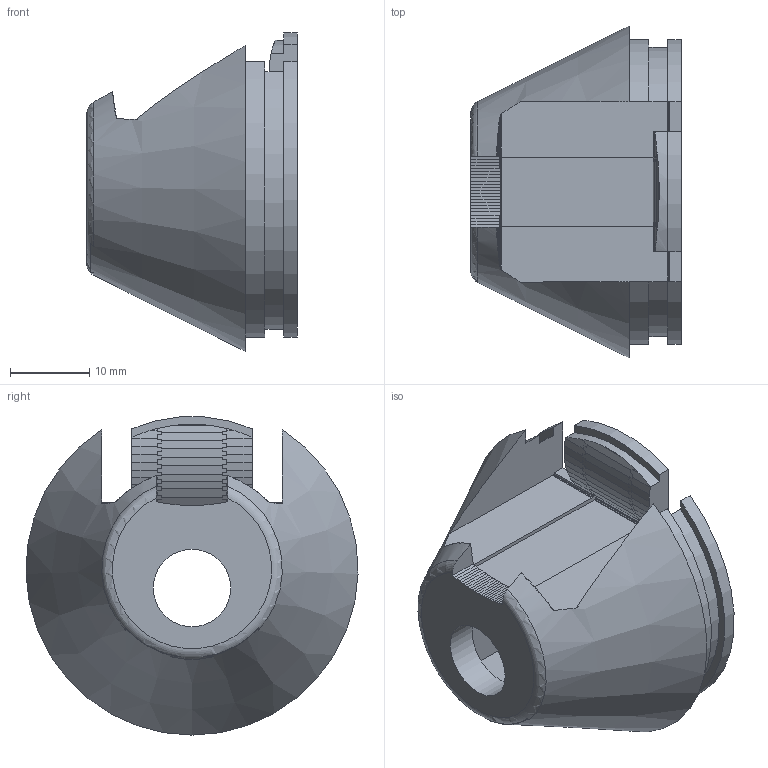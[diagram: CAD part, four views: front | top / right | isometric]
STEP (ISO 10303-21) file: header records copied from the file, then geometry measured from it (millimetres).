
FILE_DESCRIPTION(('Open CASCADE Model'),'2;1');
FILE_NAME('Open CASCADE Shape Model','2026-11-09T05:25:44',('Author'),( 'Open CASCADE'),'Open CASCADE STEP processor 8.0','build123d', 'Unknown');
FILE_SCHEMA(('AUTOMOTIVE_DESIGN { 1 0 10303 214 1 1 1 1 }'));
Length unit declared in the file: millimetre
Products named in the file (1): COMPOUND
Bounding box: 26.59 x 41.98 x 40.24 mm (x, y, z)
Volume: 7953.1 mm3; surface area: 10385.7 mm2
Topology: 1 solids, 1 shells, 332 faces, 986 edges, 658 vertices
Faces by surface type: plane 317, cylinder 12, cone 2, torus 1
Full cylindrical faces by diameter (mm): 9.8 x1
Entity records: 23916 total; most frequent: CARTESIAN_POINT 6328, DIRECTION 2607, ORIENTED_EDGE 1972, PCURVE 1972, DEFINITIONAL_REPRESENTATION 1972, LINE 1639, VECTOR 1639, B_SPLINE_CURVE_WITH_KNOTS 1096
